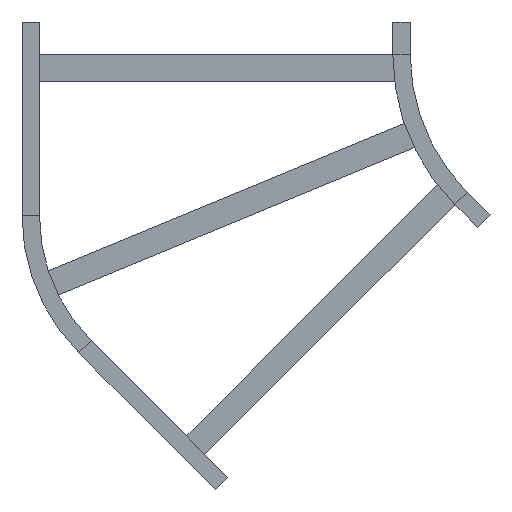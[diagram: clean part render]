
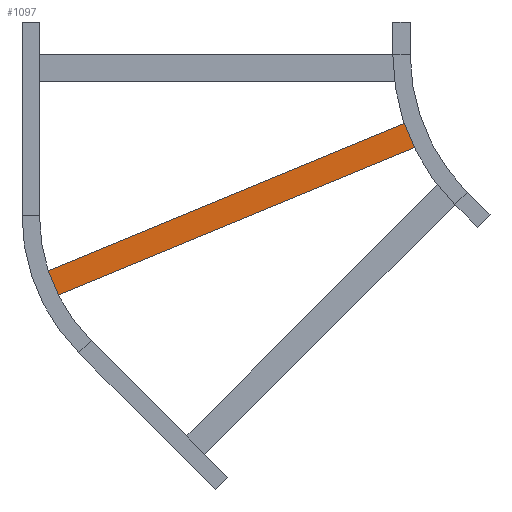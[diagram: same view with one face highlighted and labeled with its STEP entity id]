
A CAD part, front view. The second image highlights one B-rep face of the part: STEP entity #1097.
In plain terms, the highlighted planar face has unit normal (0, -1, 0).
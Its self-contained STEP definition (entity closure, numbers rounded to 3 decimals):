
#23 = CARTESIAN_POINT ( 'NONE',  ( 322., 0., -20.25 ) ) ;
#29 = EDGE_CURVE ( 'NONE', #1504, #361, #1430, .T. ) ;
#194 = LINE ( 'NONE', #479, #841 ) ;
#233 = LINE ( 'NONE', #1818, #380 ) ;
#305 = EDGE_CURVE ( 'NONE', #443, #1504, #194, .T. ) ;
#318 = AXIS2_PLACEMENT_3D ( 'NONE', #1206, #621, #754 ) ;
#360 = DIRECTION ( 'NONE',  ( 0., 0., -1. ) ) ;
#361 = VERTEX_POINT ( 'NONE', #1073 ) ;
#380 = VECTOR ( 'NONE', #393, 1000. ) ;
#393 = DIRECTION ( 'NONE',  ( -1., 0., 0. ) ) ;
#397 = EDGE_CURVE ( 'NONE', #443, #436, #233, .T. ) ;
#418 = CARTESIAN_POINT ( 'NONE',  ( 322., 0., -20.25 ) ) ;
#436 = VERTEX_POINT ( 'NONE', #1112 ) ;
#443 = VERTEX_POINT ( 'NONE', #775 ) ;
#445 = VECTOR ( 'NONE', #1423, 1000. ) ;
#479 = CARTESIAN_POINT ( 'NONE',  ( 322., 0., 20.25 ) ) ;
#620 = VECTOR ( 'NONE', #970, 1000. ) ;
#621 = DIRECTION ( 'NONE',  ( 0., 1., 0. ) ) ;
#729 = ORIENTED_EDGE ( 'NONE', *, *, #29, .F. ) ;
#754 = DIRECTION ( 'NONE',  ( 0., 0., 1. ) ) ;
#775 = CARTESIAN_POINT ( 'NONE',  ( 322., 0., 20.25 ) ) ;
#823 = ORIENTED_EDGE ( 'NONE', *, *, #305, .F. ) ;
#841 = VECTOR ( 'NONE', #360, 1000. ) ;
#970 = DIRECTION ( 'NONE',  ( 0., 0., -1. ) ) ;
#1073 = CARTESIAN_POINT ( 'NONE',  ( -322., 0., -20.25 ) ) ;
#1097 = ADVANCED_FACE ( 'NONE', ( #1699 ), #1777, .F. ) ;
#1106 = ORIENTED_EDGE ( 'NONE', *, *, #1684, .T. ) ;
#1112 = CARTESIAN_POINT ( 'NONE',  ( -322., 0., 20.25 ) ) ;
#1124 = LINE ( 'NONE', #1702, #620 ) ;
#1206 = CARTESIAN_POINT ( 'NONE',  ( 322., 0., 20.25 ) ) ;
#1361 = ORIENTED_EDGE ( 'NONE', *, *, #397, .T. ) ;
#1423 = DIRECTION ( 'NONE',  ( -1., 0., 0. ) ) ;
#1430 = LINE ( 'NONE', #418, #445 ) ;
#1504 = VERTEX_POINT ( 'NONE', #23 ) ;
#1651 = EDGE_LOOP ( 'NONE', ( #1106, #729, #823, #1361 ) ) ;
#1684 = EDGE_CURVE ( 'NONE', #436, #361, #1124, .T. ) ;
#1699 = FACE_OUTER_BOUND ( 'NONE', #1651, .T. ) ;
#1702 = CARTESIAN_POINT ( 'NONE',  ( -322., 0., 20.25 ) ) ;
#1777 = PLANE ( 'NONE',  #318 ) ;
#1818 = CARTESIAN_POINT ( 'NONE',  ( 322., 0., 20.25 ) ) ;
